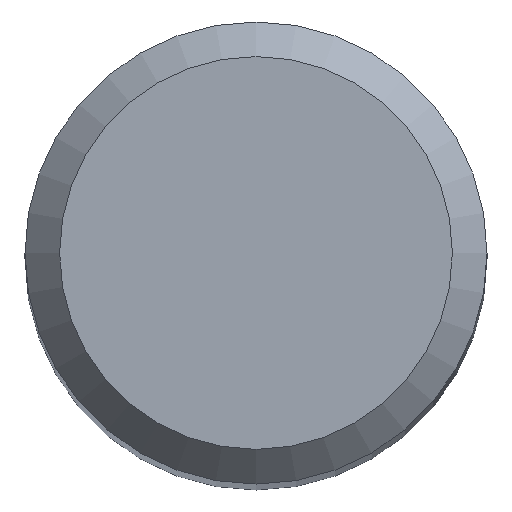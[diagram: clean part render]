
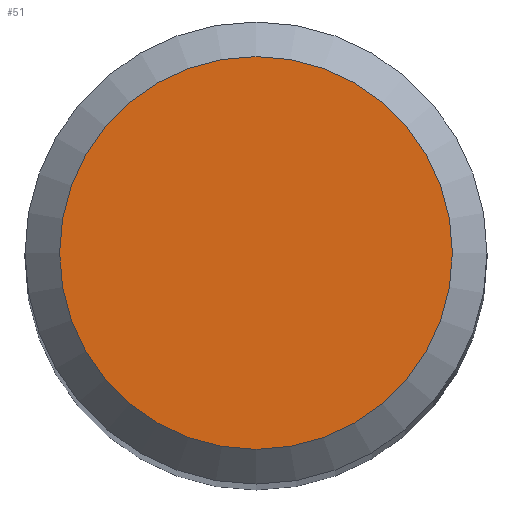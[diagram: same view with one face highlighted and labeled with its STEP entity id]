
A CAD part, top view. The second image highlights one B-rep face of the part: STEP entity #51.
In plain terms, the highlighted planar face has unit normal (0, 0, 1).
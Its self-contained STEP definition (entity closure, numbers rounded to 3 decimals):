
#51=ADVANCED_FACE('',(#58),#56,.T.);
#56=PLANE('',#90);
#58=FACE_OUTER_BOUND('',#60,.T.);
#60=EDGE_LOOP('',(#68));
#68=ORIENTED_EDGE('',*,*,#80,.T.);
#76=VERTEX_POINT('',#120);
#80=EDGE_CURVE('',#76,#76,#84,.T.);
#84=CIRCLE('',#89,1.7);
#89=AXIS2_PLACEMENT_3D('',#119,#100,#101);
#90=AXIS2_PLACEMENT_3D('',#121,#102,#103);
#100=DIRECTION('',(0.,0.,1.));
#101=DIRECTION('',(1.,0.,0.));
#102=DIRECTION('',(0.,0.,1.));
#103=DIRECTION('',(1.,0.,0.));
#119=CARTESIAN_POINT('',(0.,0.,30.));
#120=CARTESIAN_POINT('',(1.7,0.,30.));
#121=CARTESIAN_POINT('',(0.,0.,30.));
